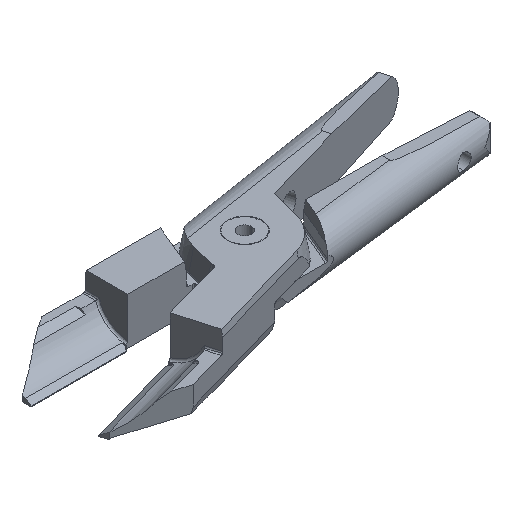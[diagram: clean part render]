
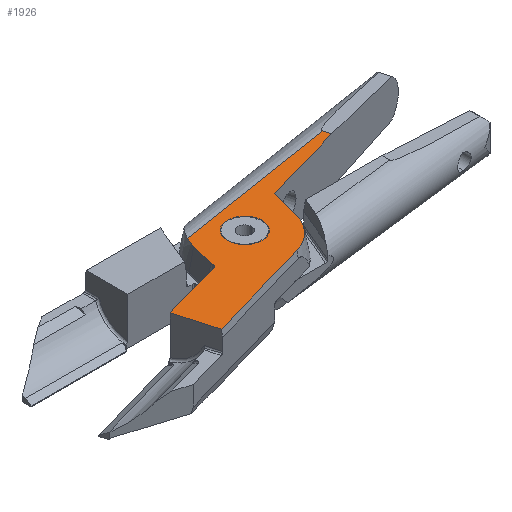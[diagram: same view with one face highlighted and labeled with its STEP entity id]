
A CAD part, isometric view. The second image highlights one B-rep face of the part: STEP entity #1926.
In plain terms, the highlighted planar face has unit normal (0, 0, 1) as drawn and (0, 0, -1) by its records, which use the part's own axes.
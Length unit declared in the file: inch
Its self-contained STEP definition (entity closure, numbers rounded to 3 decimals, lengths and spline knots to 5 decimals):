
#259=CARTESIAN_POINT('',(-0.00785,0.,-0.64825));
#260=VERTEX_POINT('',#259);
#268=CARTESIAN_POINT('',(-0.49215,0.,-0.64825));
#269=VERTEX_POINT('',#268);
#276=CARTESIAN_POINT('',(-0.25,0.0,-0.64825));
#277=DIRECTION('',(0.0,0.0,-1.0));
#278=DIRECTION('',(1.0,0.0,0.0));
#279=AXIS2_PLACEMENT_3D('',#276,#277,#278);
#280=CIRCLE('',#279,0.24215);
#281=EDGE_CURVE('',#269,#260,#280,.T.);
#381=CARTESIAN_POINT('',(-0.94079,0.03121,-0.64825));
#382=VERTEX_POINT('',#381);
#398=CARTESIAN_POINT('',(-0.962,0.04,-0.64825));
#399=VERTEX_POINT('',#398);
#406=CARTESIAN_POINT('',(-0.962,0.01,-0.64825));
#407=DIRECTION('',(0.0,0.0,-1.));
#408=DIRECTION('',(0.707,0.707,0.0));
#409=AXIS2_PLACEMENT_3D('',#406,#407,#408);
#410=CIRCLE('',#409,0.03);
#411=EDGE_CURVE('',#399,#382,#410,.T.);
#751=CARTESIAN_POINT('',(-0.65378,-0.43894,-0.64825));
#752=VERTEX_POINT('',#751);
#764=CARTESIAN_POINT('',(1.65933,-0.15492,-0.64825));
#765=VERTEX_POINT('',#764);
#766=CARTESIAN_POINT('',(1.65933,-0.15492,-0.64825));
#767=DIRECTION('',(-0.993,-0.122,0.0));
#768=VECTOR('',#767,2.33048);
#769=LINE('',#766,#768);
#770=EDGE_CURVE('',#765,#752,#769,.T.);
#929=CARTESIAN_POINT('',(1.65933,-0.05,-0.64825));
#930=VERTEX_POINT('',#929);
#931=CARTESIAN_POINT('',(1.65933,-0.15492,-0.64825));
#932=DIRECTION('',(0.0,1.0,0.0));
#933=VECTOR('',#932,0.10492);
#934=LINE('',#931,#933);
#935=EDGE_CURVE('',#765,#930,#934,.T.);
#1704=CARTESIAN_POINT('',(-0.932,0.01,-0.64825));
#1705=VERTEX_POINT('',#1704);
#1706=CARTESIAN_POINT('',(-0.962,0.01,-0.64825));
#1707=DIRECTION('',(0.0,0.0,-1.));
#1708=DIRECTION('',(0.707,0.707,0.0));
#1709=AXIS2_PLACEMENT_3D('',#1706,#1707,#1708);
#1710=CIRCLE('',#1709,0.03);
#1711=EDGE_CURVE('',#382,#1705,#1710,.T.);
#1738=CARTESIAN_POINT('',(-1.882,0.04,-0.64825));
#1739=VERTEX_POINT('',#1738);
#1746=CARTESIAN_POINT('',(-1.882,0.04,-0.64825));
#1747=DIRECTION('',(1.0,0.0,0.0));
#1748=VECTOR('',#1747,0.92);
#1749=LINE('',#1746,#1748);
#1750=EDGE_CURVE('',#1739,#399,#1749,.T.);
#1801=CARTESIAN_POINT('',(-1.882,0.63381,-0.64825));
#1802=VERTEX_POINT('',#1801);
#1809=CARTESIAN_POINT('',(-1.882,0.04,-0.64825));
#1810=DIRECTION('',(0.0,1.0,0.0));
#1811=VECTOR('',#1810,0.59381);
#1812=LINE('',#1809,#1811);
#1813=EDGE_CURVE('',#1739,#1802,#1812,.T.);
#1832=CARTESIAN_POINT('',(2.7155,-0.6875,-0.64825));
#1833=DIRECTION('',(0.0,0.0,1.0));
#1834=DIRECTION('',(1.0,0.0,0.0));
#1835=AXIS2_PLACEMENT_3D('',#1832,#1833,#1834);
#1836=PLANE('',#1835);
#1837=ORIENTED_EDGE('',*,*,#770,.T.);
#1838=CARTESIAN_POINT('',(-0.74545,-0.3169,-0.64825));
#1839=VERTEX_POINT('',#1838);
#1840=CARTESIAN_POINT('',(-0.19656,0.,-0.64825));
#1841=DIRECTION('',(0.0,0.0,1.0));
#1842=DIRECTION('',(1.0,0.0,0.0));
#1843=AXIS2_PLACEMENT_3D('',#1840,#1841,#1842);
#1844=CIRCLE('',#1843,0.63381);
#1845=EDGE_CURVE('',#1839,#752,#1844,.T.);
#1846=ORIENTED_EDGE('',*,*,#1845,.F.);
#1847=CARTESIAN_POINT('',(-0.919,-0.01631,-0.64825));
#1848=VERTEX_POINT('',#1847);
#1849=CARTESIAN_POINT('',(-0.919,-0.01631,-0.64825));
#1850=DIRECTION('',(0.5,-0.866,0.0));
#1851=VECTOR('',#1850,0.3471);
#1852=LINE('',#1849,#1851);
#1853=EDGE_CURVE('',#1848,#1839,#1852,.T.);
#1854=ORIENTED_EDGE('',*,*,#1853,.F.);
#1855=CARTESIAN_POINT('',(-0.9318,-0.01631,-0.64825));
#1856=VERTEX_POINT('',#1855);
#1857=CARTESIAN_POINT('',(-0.9318,-0.01631,-0.64825));
#1858=DIRECTION('',(1.0,0.0,0.0));
#1859=VECTOR('',#1858,0.0128);
#1860=LINE('',#1857,#1859);
#1861=EDGE_CURVE('',#1856,#1848,#1860,.T.);
#1862=ORIENTED_EDGE('',*,*,#1861,.F.);
#1863=CARTESIAN_POINT('',(-0.932,0.,-0.64825));
#1864=VERTEX_POINT('',#1863);
#1865=CARTESIAN_POINT('',(-0.25,0.0,-0.64825));
#1866=DIRECTION('',(0.0,0.0,1.0));
#1867=DIRECTION('',(1.0,0.0,0.0));
#1868=AXIS2_PLACEMENT_3D('',#1865,#1866,#1867);
#1869=CIRCLE('',#1868,0.682);
#1870=EDGE_CURVE('',#1864,#1856,#1869,.T.);
#1871=ORIENTED_EDGE('',*,*,#1870,.F.);
#1872=CARTESIAN_POINT('',(-0.932,0.01,-0.64825));
#1873=DIRECTION('',(0.0,-1.0,0.0));
#1874=VECTOR('',#1873,0.01);
#1875=LINE('',#1872,#1874);
#1876=EDGE_CURVE('',#1705,#1864,#1875,.T.);
#1877=ORIENTED_EDGE('',*,*,#1876,.F.);
#1878=ORIENTED_EDGE('',*,*,#1711,.F.);
#1879=ORIENTED_EDGE('',*,*,#411,.F.);
#1880=ORIENTED_EDGE('',*,*,#1750,.F.);
#1881=ORIENTED_EDGE('',*,*,#1813,.T.);
#1882=CARTESIAN_POINT('',(-0.30344,0.63381,-0.64825));
#1883=VERTEX_POINT('',#1882);
#1884=CARTESIAN_POINT('',(-0.30344,0.63381,-0.64825));
#1885=DIRECTION('',(-1.0,0.0,0.0));
#1886=VECTOR('',#1885,1.57856);
#1887=LINE('',#1884,#1886);
#1888=EDGE_CURVE('',#1883,#1802,#1887,.T.);
#1889=ORIENTED_EDGE('',*,*,#1888,.F.);
#1890=CARTESIAN_POINT('',(0.24545,0.3169,-0.64825));
#1891=VERTEX_POINT('',#1890);
#1892=CARTESIAN_POINT('',(-0.30344,0.,-0.64825));
#1893=DIRECTION('',(0.0,0.0,1.0));
#1894=DIRECTION('',(1.0,0.0,0.0));
#1895=AXIS2_PLACEMENT_3D('',#1892,#1893,#1894);
#1896=CIRCLE('',#1895,0.63381);
#1897=EDGE_CURVE('',#1891,#1883,#1896,.T.);
#1898=ORIENTED_EDGE('',*,*,#1897,.F.);
#1899=CARTESIAN_POINT('',(0.45728,-0.05,-0.64825));
#1900=VERTEX_POINT('',#1899);
#1901=CARTESIAN_POINT('',(0.45728,-0.05,-0.64825));
#1902=DIRECTION('',(-0.5,0.866,0.0));
#1903=VECTOR('',#1902,0.42366);
#1904=LINE('',#1901,#1903);
#1905=EDGE_CURVE('',#1900,#1891,#1904,.T.);
#1906=ORIENTED_EDGE('',*,*,#1905,.F.);
#1907=CARTESIAN_POINT('',(1.65933,-0.05,-0.64825));
#1908=DIRECTION('',(-1.0,0.0,0.0));
#1909=VECTOR('',#1908,1.20205);
#1910=LINE('',#1907,#1909);
#1911=EDGE_CURVE('',#930,#1900,#1910,.T.);
#1912=ORIENTED_EDGE('',*,*,#1911,.F.);
#1913=ORIENTED_EDGE('',*,*,#935,.F.);
#1914=EDGE_LOOP('',(#1837,#1846,#1854,#1862,#1871,#1877,#1878,#1879,#1880,#1881,#1889,#1898,#1906,#1912,#1913));
#1915=FACE_OUTER_BOUND('',#1914,.T.);
#1916=ORIENTED_EDGE('',*,*,#281,.F.);
#1917=CARTESIAN_POINT('',(-0.25,0.0,-0.64825));
#1918=DIRECTION('',(0.0,0.0,-1.0));
#1919=DIRECTION('',(1.0,0.0,0.0));
#1920=AXIS2_PLACEMENT_3D('',#1917,#1918,#1919);
#1921=CIRCLE('',#1920,0.24215);
#1922=EDGE_CURVE('',#260,#269,#1921,.T.);
#1923=ORIENTED_EDGE('',*,*,#1922,.F.);
#1924=EDGE_LOOP('',(#1916,#1923));
#1925=FACE_BOUND('',#1924,.T.);
#1926=ADVANCED_FACE('',(#1915,#1925),#1836,.F.);
